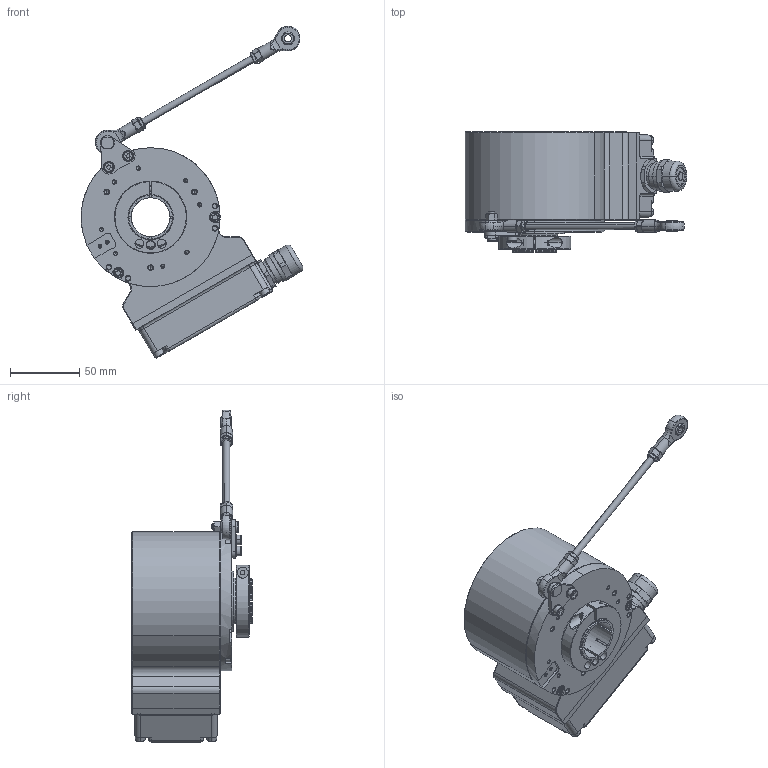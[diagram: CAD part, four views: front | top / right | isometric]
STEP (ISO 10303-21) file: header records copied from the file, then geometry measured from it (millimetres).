
FILE_DESCRIPTION (( 'STEP AP203' ), '1' );
FILE_NAME ('8.H120.47XK.XXXX.STEP', '2013-10-10T05:55:39', ( 'LauferA' ), ( 'Microsoft' ), 'SwSTEP 2.0', 'SolidWorks 2013', '' );
FILE_SCHEMA (( 'CONFIG_CONTROL_DESIGN' ));
Length unit declared in the file: millimetre
Products named in the file (1): 8.H120.47XK.XXXX
Bounding box: 159.62 x 86.5 x 239 mm (x, y, z)
Volume: 375745.4 mm3; surface area: 177251.5 mm2
Topology: 31 solids, 31 shells, 1616 faces, 3968 edges, 2397 vertices
Faces by surface type: cylinder 585, plane 481, cone 384, torus 90, bspline 52, sphere 24
Entity records: 48807 total; most frequent: CARTESIAN_POINT 10580, DIRECTION 8424, ORIENTED_EDGE 7708, EDGE_CURVE 3854, AXIS2_PLACEMENT_3D 3297, VERTEX_POINT 2393, LINE 1830, VECTOR 1830
